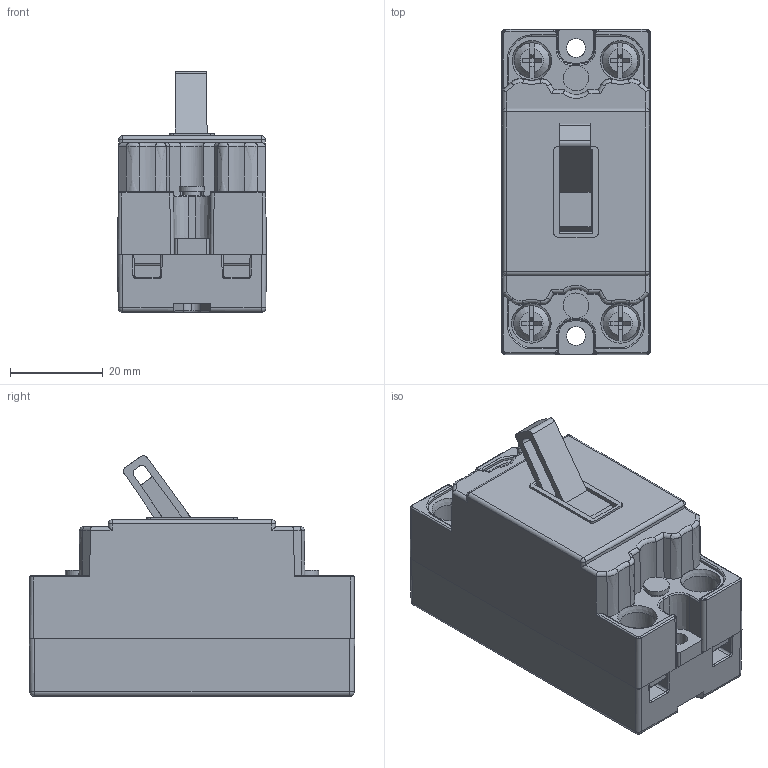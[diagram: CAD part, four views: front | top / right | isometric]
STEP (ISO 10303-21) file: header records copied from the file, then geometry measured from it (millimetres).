
FILE_DESCRIPTION(/* description */ (''),/* implementation_level */ '2;1');
FILE_NAME(/* name */ '13_kd-ds2310a_141029.stp',/* time_stamp */ '2014-10-29T10:51:17+09:00',/* author */ (''),/* organization */ (''),/* preprocessor_version */ 'ST-DEVELOPER v14',/* originating_system */ 'SIEMENS PLM Software NX 8.0',/* authorisation */ '');
FILE_SCHEMA (('AP203_CONFIGURATION_CONTROLLED_3D_DESIGN_OF_MECHANICAL_PARTS_AND_ASSEMBLIES_MIM_LF { 1 0 10303 403 2 1 2}'));
Length unit declared in the file: millimetre
Products named in the file (1): as1808DC4DA56ivc
Bounding box: 32 x 70 x 51.83 mm (x, y, z)
Volume: 68998.4 mm3; surface area: 15818.4 mm2
Topology: 1 solids, 1 shells, 684 faces, 1719 edges, 993 vertices
Faces by surface type: plane 253, cylinder 252, torus 57, bspline 56, sphere 48, cone 18
Full cylindrical faces by diameter (mm): 1.8 x2, 6 x1, 7 x2, 7.7 x4
Entity records: 20940 total; most frequent: CARTESIAN_POINT 5367, ORIENTED_EDGE 3274, DIRECTION 3238, EDGE_CURVE 1637, AXIS2_PLACEMENT_3D 1198, VERTEX_POINT 981, LINE 842, VECTOR 842
